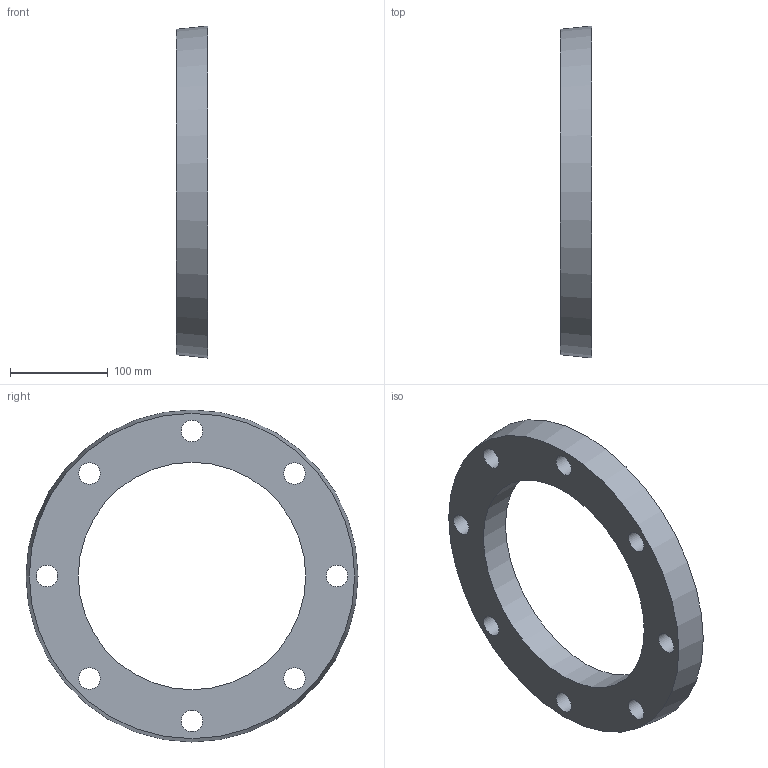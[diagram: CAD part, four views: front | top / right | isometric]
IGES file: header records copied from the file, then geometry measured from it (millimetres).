
Global section: file name: 059000200.ipt; native system: Autodesk Inventor 2015; preprocessor: unknown; author: KIM; date: 20171207.165922; units: millimetre
Bounding box: 32 x 340 x 340 mm (x, y, z)
Volume: 1385880 mm3; surface area: 161776 mm2
Topology: 1 solids, 1 shells, 12 faces, 32 edges, 22 vertices
Faces by surface type: revolution 9, plane 2, cone 1
